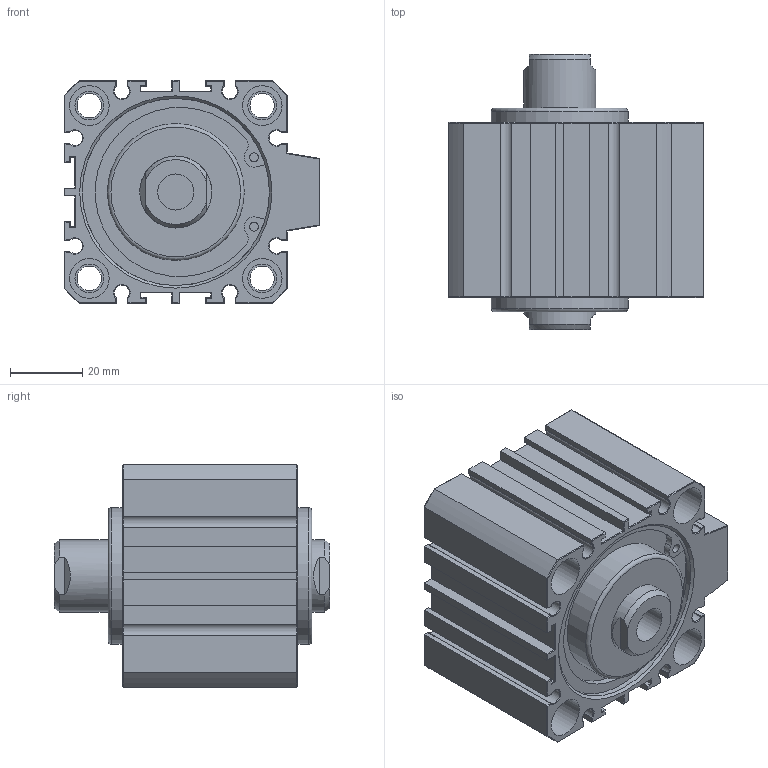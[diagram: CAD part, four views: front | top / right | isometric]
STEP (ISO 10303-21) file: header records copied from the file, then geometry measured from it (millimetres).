
FILE_DESCRIPTION(/* description */ (''),/* implementation_level */ '2;1');
FILE_NAME(/* name */ 'AJC-SWM50X10N',/* time_stamp */ '2019-07-19T10:32:04+08:00',/* author */ ('JEFF HUANG'),/* organization */ ('TAIWAN AMAC CLAMP INDUSTRIAL CO., LTD.'),/* preprocessor_version */ 'ST-DEVELOPER v16.7',/* originating_system */ 'DEX',/* authorisation */ $);
FILE_SCHEMA (('AUTOMOTIVE_DESIGN {1 0 10303 214 3 1 1}'));
Length unit declared in the file: millimetre
Products named in the file (1): AJC-SWM50X10N
Bounding box: 71 x 76.6 x 62 mm (x, y, z)
Volume: 171680 mm3; surface area: 37302.9 mm2
Topology: 1 solids, 1 shells, 392 faces, 880 edges, 488 vertices
Faces by surface type: plane 252, cylinder 74, cone 64, torus 2
Full cylindrical faces by diameter (mm): 2.5 x4, 6.8 x4, 8 x8, 10 x2, 11 x8, 12.301 x2, 20 x2, 38 x2, 52 x2
Entity records: 12860 total; most frequent: DIRECTION 1754, CARTESIAN_POINT 1749, ORIENTED_EDGE 1604, EDGE_CURVE 802, LINE 588, VECTOR 588, AXIS2_PLACEMENT_3D 583, VERTEX_POINT 482
